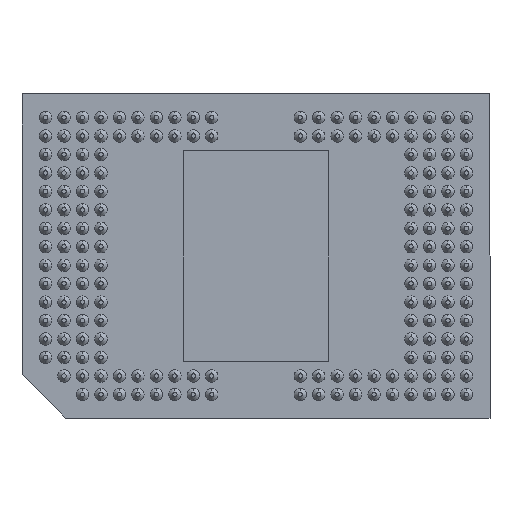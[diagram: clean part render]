
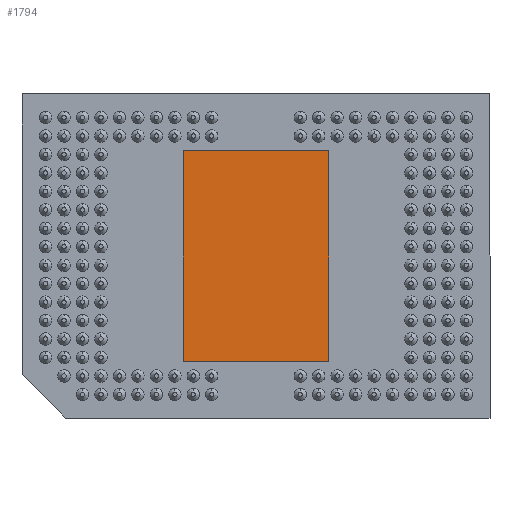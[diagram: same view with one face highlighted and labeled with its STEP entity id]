
A CAD part, front view. The second image highlights one B-rep face of the part: STEP entity #1794.
In plain terms, the highlighted planar face has unit normal (0, -1, 0) as drawn and (0, 0, -1) by its records, which use the part's own axes.
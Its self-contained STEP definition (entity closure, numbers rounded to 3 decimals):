
#102 = CARTESIAN_POINT ( 'NONE',  ( -3.5, 6.5, 0. ) ) ;
#1794 = ADVANCED_FACE ( 'NONE', ( #24220 ), #14695, .F. ) ;
#2071 = CARTESIAN_POINT ( 'NONE',  ( 11.01, -3.5, 0. ) ) ;
#5906 = VECTOR ( 'NONE', #5937, 1000. ) ;
#5937 = DIRECTION ( 'NONE',  ( 0., -1., 0. ) ) ;
#7212 = VERTEX_POINT ( 'NONE', #12326 ) ;
#7414 = EDGE_CURVE ( 'NONE', #7212, #17174, #14576, .T. ) ;
#8226 = CARTESIAN_POINT ( 'NONE',  ( 11.01, -3.5, 0. ) ) ;
#8364 = CARTESIAN_POINT ( 'NONE',  ( 11.01, 6.5, 0. ) ) ;
#8542 = VECTOR ( 'NONE', #23768, 1000. ) ;
#8985 = EDGE_LOOP ( 'NONE', ( #24580, #17911, #19365, #12172 ) ) ;
#9064 = VERTEX_POINT ( 'NONE', #14299 ) ;
#9180 = CARTESIAN_POINT ( 'NONE',  ( -3.5, -3.5, 0. ) ) ;
#9215 = VERTEX_POINT ( 'NONE', #102 ) ;
#9349 = LINE ( 'NONE', #2071, #18424 ) ;
#10602 = LINE ( 'NONE', #8364, #8542 ) ;
#12172 = ORIENTED_EDGE ( 'NONE', *, *, #7414, .F. ) ;
#12326 = CARTESIAN_POINT ( 'NONE',  ( -3.5, -3.5, 0. ) ) ;
#12767 = EDGE_CURVE ( 'NONE', #9215, #7212, #18397, .T. ) ;
#14299 = CARTESIAN_POINT ( 'NONE',  ( 11.01, 6.5, 0. ) ) ;
#14329 = DIRECTION ( 'NONE',  ( 1., 0., 0. ) ) ;
#14576 = LINE ( 'NONE', #9180, #14648 ) ;
#14648 = VECTOR ( 'NONE', #14923, 1000. ) ;
#14695 = PLANE ( 'NONE',  #15402 ) ;
#14923 = DIRECTION ( 'NONE',  ( 1., 0., 0. ) ) ;
#15402 = AXIS2_PLACEMENT_3D ( 'NONE', #22345, #23846, #14329 ) ;
#16994 = DIRECTION ( 'NONE',  ( 0., 1., 0. ) ) ;
#17174 = VERTEX_POINT ( 'NONE', #8226 ) ;
#17911 = ORIENTED_EDGE ( 'NONE', *, *, #21685, .F. ) ;
#18397 = LINE ( 'NONE', #24282, #5906 ) ;
#18424 = VECTOR ( 'NONE', #16994, 1000. ) ;
#19365 = ORIENTED_EDGE ( 'NONE', *, *, #19644, .F. ) ;
#19644 = EDGE_CURVE ( 'NONE', #17174, #9064, #9349, .T. ) ;
#21685 = EDGE_CURVE ( 'NONE', #9064, #9215, #10602, .T. ) ;
#22345 = CARTESIAN_POINT ( 'NONE',  ( 0., 0., 0. ) ) ;
#23768 = DIRECTION ( 'NONE',  ( -1., 0., 0. ) ) ;
#23846 = DIRECTION ( 'NONE',  ( 0., 0., 1. ) ) ;
#24220 = FACE_OUTER_BOUND ( 'NONE', #8985, .T. ) ;
#24282 = CARTESIAN_POINT ( 'NONE',  ( -3.5, 6.5, 0. ) ) ;
#24580 = ORIENTED_EDGE ( 'NONE', *, *, #12767, .F. ) ;
